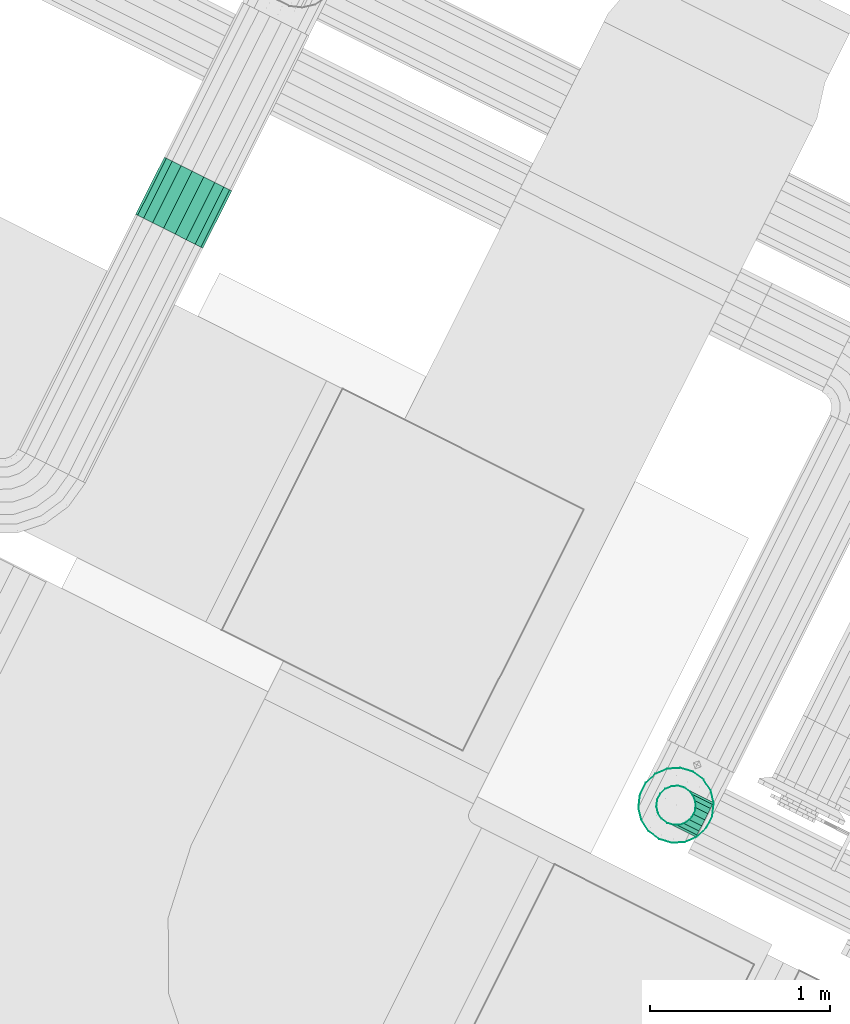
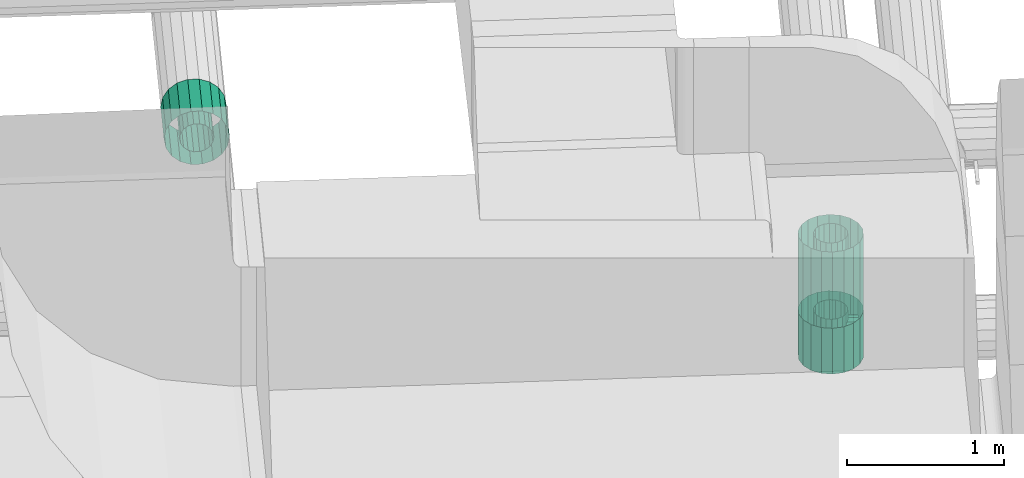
# One storey, part 77 of 152: 3 flow fittings, 1 flow segment.
"""IFC2X3 building model written with IfcOpenShell, lengths in metres."""

from ifc_helpers import new_model, si_unit, derived_unit, direction, frame, origin, place, context, subcontext, project, spatial, face_set, surface_model, source, transform, mapped, material, type_object, type_shapes, element, save


model = new_model("IFC2X3")

# Units and contexts
model_context = context("Model", 3, precision=5.2338327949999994e-05, world=origin(), true_north=direction((0.0, 1.0)))
body_context = subcontext(model_context, "Body", "Model", "MODEL_VIEW")
ifc_project = project(units=[si_unit("LENGTHUNIT", "METRE"), si_unit("AREAUNIT", "SQUARE_METRE"), si_unit("VOLUMEUNIT", "CUBIC_METRE"), si_unit("MASSUNIT", "GRAM", prefix="KILO"), si_unit("PLANEANGLEUNIT", "RADIAN"), derived_unit("THERMALTRANSMITTANCEUNIT", [(si_unit("MASSUNIT", "GRAM", prefix="KILO"), 1), (si_unit("THERMODYNAMICTEMPERATUREUNIT", "KELVIN"), -1), (si_unit("TIMEUNIT", "SECOND"), -3)])], contexts=[model_context])

# Site, building, storey
site_placement = place(None, frame((0.0, 0.0, 0.0), z_axis=(0.0, 0.0, 1.0), x_axis=(0.8939966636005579, -0.4480736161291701, 0.0)))
site = spatial("IfcSite", under=ifc_project, at=site_placement, Name="Default", CompositionType="ELEMENT")
building_placement = place(site_placement, origin())
building = spatial("IfcBuilding", under=site, at=building_placement, CompositionType="ELEMENT")
storey_placement = place(building_placement, frame((0.0, 0.0, 2.7499999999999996)))
storey = spatial("IfcBuildingStorey", under=building, at=storey_placement, Name="1. Obergeschoss", CompositionType="ELEMENT", Elevation=2.7499999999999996)

# Flow fittings
ifc_material_1 = material(Name="IfcSurfaceStyle #9317")
distribution_element_type_1 = type_object("IfcDistributionElementType", Name="Abzweigstück 251239:Abzweigstück 251239", material=ifc_material_1)
shared_shape_1 = source(origin(), body_context, "Body", "SurfaceModel", [
    surface_model("IfcFaceBasedSurfaceModel", [(32.49539487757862, 8.52443682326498, 4.737549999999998), (32.45792657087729, 8.531043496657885, 4.737549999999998), (32.45792657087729, 8.531043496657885, 4.381549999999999), (32.49539487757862, 8.52443682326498, 4.381549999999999), (32.42497749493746, 8.550066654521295, 4.737549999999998), (32.42497749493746, 8.550066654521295, 4.381549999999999), (32.40052179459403, 8.579211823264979, 4.737549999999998), (32.40052179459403, 8.579211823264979, 4.381549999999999), (32.38750918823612, 8.614963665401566, 4.737549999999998), (32.38750918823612, 8.614963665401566, 4.381549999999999), (32.38750918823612, 8.65300998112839, 4.737549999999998), (32.38750918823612, 8.65300998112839, 4.381549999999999), (32.40052179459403, 8.688761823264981, 4.737549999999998), (32.40052179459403, 8.688761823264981, 4.381549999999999), (32.42497749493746, 8.717906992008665, 4.737549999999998), (32.42497749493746, 8.717906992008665, 4.381549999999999), (32.4579265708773, 8.736930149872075, 4.737549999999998), (32.4579265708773, 8.736930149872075, 4.381549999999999), (32.49539487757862, 8.74353682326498, 4.737549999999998), (32.49539487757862, 8.74353682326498, 4.381549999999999), (32.53286318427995, 8.736930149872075, 4.737549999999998), (32.53286318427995, 8.736930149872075, 4.381549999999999), (32.56581226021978, 8.717906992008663, 4.737549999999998), (32.56581226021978, 8.717906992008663, 4.381549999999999), (32.5902679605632, 8.68876182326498, 4.737549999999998), (32.5902679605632, 8.68876182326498, 4.381549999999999), (32.6032805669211, 8.653009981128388, 4.737549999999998), (32.6032805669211, 8.653009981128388, 4.381549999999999), (32.60328056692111, 8.614963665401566, 4.737549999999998), (32.60328056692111, 8.614963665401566, 4.381549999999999), (32.5902679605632, 8.579211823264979, 4.737549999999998), (32.5902679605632, 8.579211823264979, 4.381549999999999), (32.56581226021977, 8.550066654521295, 4.737549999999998), (32.56581226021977, 8.550066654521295, 4.381549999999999), (32.53286318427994, 8.531043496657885, 4.737549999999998), (32.53286318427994, 8.531043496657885, 4.381549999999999), (32.49539487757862, 8.424436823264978, 4.737549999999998), (32.423724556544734, 8.437074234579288, 4.737549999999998), (32.42372455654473, 8.437074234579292, 4.381549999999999), (32.49539487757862, 8.424436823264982, 4.381549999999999), (32.3606987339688, 8.4734622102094, 4.737549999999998), (32.3606987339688, 8.4734622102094, 4.381549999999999), (32.31391925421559, 8.529211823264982, 4.737549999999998), (32.31391925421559, 8.529211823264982, 4.381549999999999), (32.28902841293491, 8.597598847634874, 4.737549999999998), (32.28902841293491, 8.597598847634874, 4.381549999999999), (32.28902841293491, 8.670374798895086, 4.737549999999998), (32.28902841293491, 8.670374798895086, 4.381549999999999), (32.31391925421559, 8.738761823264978, 4.737549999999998), (32.31391925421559, 8.738761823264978, 4.381549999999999), (32.3606987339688, 8.794511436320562, 4.737549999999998), (32.3606987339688, 8.794511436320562, 4.381549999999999), (32.42372455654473, 8.83089941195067, 4.737549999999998), (32.42372455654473, 8.83089941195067, 4.381549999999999), (32.49539487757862, 8.843536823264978, 4.737549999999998), (32.49539487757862, 8.843536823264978, 4.381549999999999), (32.56706519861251, 8.830899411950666, 4.737549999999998), (32.56706519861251, 8.830899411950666, 4.381549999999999), (32.630091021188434, 8.794511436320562, 4.737549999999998), (32.630091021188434, 8.794511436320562, 4.381549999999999), (32.67687050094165, 8.738761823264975, 4.737549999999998), (32.67687050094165, 8.738761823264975, 4.381549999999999), (32.701761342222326, 8.670374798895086, 4.737549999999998), (32.701761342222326, 8.670374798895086, 4.381549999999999), (32.701761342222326, 8.597598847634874, 4.737549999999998), (32.701761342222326, 8.597598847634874, 4.381549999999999), (32.67687050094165, 8.529211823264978, 4.737549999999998), (32.67687050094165, 8.529211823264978, 4.381549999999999), (32.630091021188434, 8.473462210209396, 4.737549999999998), (32.630091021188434, 8.473462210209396, 4.381549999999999), (32.56706519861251, 8.437074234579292, 4.737549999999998), (32.56706519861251, 8.437074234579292, 4.381549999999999), (32.60494487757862, 8.63398682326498, 4.449999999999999), (32.598338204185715, 8.671455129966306, 4.456606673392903), (32.673394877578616, 8.671455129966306, 4.456606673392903), (32.67339487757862, 8.63398682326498, 4.449999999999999), (32.5793150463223, 8.70440420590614, 4.475629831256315), (32.673394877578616, 8.70440420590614, 4.475629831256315), (32.55016987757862, 8.728859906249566, 4.5047749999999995), (32.673394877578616, 8.728859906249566, 4.5047749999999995), (32.514418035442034, 8.741872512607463, 4.540526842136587), (32.673394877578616, 8.741872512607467, 4.540526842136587), (32.514418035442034, 8.741872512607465, 4.578573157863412), (32.673394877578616, 8.741872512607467, 4.578573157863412), (32.55016987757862, 8.728859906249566, 4.614324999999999), (32.673394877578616, 8.728859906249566, 4.614324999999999), (32.5793150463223, 8.70440420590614, 4.643470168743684), (32.673394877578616, 8.70440420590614, 4.643470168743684), (32.598338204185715, 8.671455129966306, 4.662493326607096), (32.673394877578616, 8.671455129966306, 4.662493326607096), (32.60494487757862, 8.63398682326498, 4.6690999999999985), (32.67339487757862, 8.63398682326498, 4.669099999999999), (32.5983382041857, 8.596518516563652, 4.662493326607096), (32.673394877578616, 8.596518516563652, 4.662493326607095), (32.5793150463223, 8.56356944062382, 4.643470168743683), (32.673394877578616, 8.56356944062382, 4.643470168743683), (32.55016987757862, 8.539113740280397, 4.614324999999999), (32.673394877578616, 8.539113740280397, 4.614325), (32.51441803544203, 8.526101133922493, 4.578573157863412), (32.673394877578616, 8.526101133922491, 4.578573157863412), (32.51441803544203, 8.526101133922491, 4.540526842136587), (32.673394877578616, 8.52610113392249, 4.540526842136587), (32.55016987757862, 8.539113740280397, 4.5047749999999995), (32.673394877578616, 8.539113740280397, 4.5047749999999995), (32.5793150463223, 8.56356944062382, 4.475629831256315), (32.673394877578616, 8.563569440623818, 4.475629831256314), (32.5983382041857, 8.596518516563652, 4.456606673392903), (32.673394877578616, 8.596518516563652, 4.456606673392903)], [face_set([[[0, 1, 2, 3]], [[1, 4, 5, 2]], [[4, 6, 7, 5]], [[6, 8, 9, 7]], [[8, 10, 11, 9]], [[10, 12, 13, 11]], [[12, 14, 15, 13]], [[14, 16, 17, 15]], [[16, 18, 19, 17]], [[18, 20, 21, 19]], [[20, 22, 23, 21]], [[22, 24, 25, 23]], [[24, 26, 27, 25]], [[26, 28, 29, 27]], [[28, 30, 31, 29]], [[30, 32, 33, 31]], [[32, 34, 35, 33]], [[34, 0, 3, 35]], [[36, 37, 38, 39]], [[37, 40, 41, 38]], [[40, 42, 43, 41]], [[42, 44, 45, 43]], [[44, 46, 47, 45]], [[46, 48, 49, 47]], [[48, 50, 51, 49]], [[50, 52, 53, 51]], [[52, 54, 55, 53]], [[54, 56, 57, 55]], [[56, 58, 59, 57]], [[58, 60, 61, 59]], [[60, 62, 63, 61]], [[62, 64, 65, 63]], [[64, 66, 67, 65]], [[66, 68, 69, 67]], [[68, 70, 71, 69]], [[70, 36, 39, 71]], [[72, 73, 74, 75]], [[73, 76, 77, 74]], [[76, 78, 79, 77]], [[78, 80, 81, 79]], [[80, 82, 83, 81]], [[82, 84, 85, 83]], [[84, 86, 87, 85]], [[86, 88, 89, 87]], [[88, 90, 91, 89]], [[90, 92, 93, 91]], [[92, 94, 95, 93]], [[94, 96, 97, 95]], [[96, 98, 99, 97]], [[98, 100, 101, 99]], [[100, 102, 103, 101]], [[102, 104, 105, 103]], [[104, 106, 107, 105]], [[106, 72, 75, 107]]])]),
])
type_shapes(distribution_element_type_1, [shared_shape_1])
flow_fitting_1_placement = place(storey_placement, frame((0.0, 0.0, -2.7499999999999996)))
element("IfcFlowFitting", 1, at=flow_fitting_1_placement, inside=storey, type_object=distribution_element_type_1, material=ifc_material_1, Name="Abzweigstück", ObjectType="Abzweigstück", context=body_context, shape_type="MappedRepresentation", body=[
    mapped(shared_shape_1, transform((0.0, 0.0, 0.0), scale=1.0)),
])
distribution_element_type_2 = type_object("IfcDistributionElementType", Name="Abzweigstück 346827:Abzweigstück 346827", material=ifc_material_1)
shared_shape_2 = source(origin(), body_context, "Body", "SurfaceModel", [
    surface_model("IfcFaceBasedSurfaceModel", [(32.49539487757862, 8.52443682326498, 4.73755), (32.45792657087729, 8.531043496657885, 4.73755), (32.45792657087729, 8.531043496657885, 4.38155), (32.49539487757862, 8.52443682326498, 4.38155), (32.42497749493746, 8.550066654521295, 4.73755), (32.42497749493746, 8.550066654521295, 4.38155), (32.40052179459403, 8.579211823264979, 4.73755), (32.40052179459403, 8.579211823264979, 4.38155), (32.38750918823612, 8.614963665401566, 4.73755), (32.38750918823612, 8.614963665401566, 4.38155), (32.38750918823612, 8.65300998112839, 4.73755), (32.38750918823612, 8.65300998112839, 4.38155), (32.40052179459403, 8.688761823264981, 4.73755), (32.40052179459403, 8.688761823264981, 4.38155), (32.42497749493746, 8.717906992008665, 4.73755), (32.42497749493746, 8.717906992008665, 4.38155), (32.4579265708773, 8.736930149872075, 4.73755), (32.4579265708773, 8.736930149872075, 4.38155), (32.49539487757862, 8.74353682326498, 4.73755), (32.49539487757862, 8.74353682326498, 4.38155), (32.53286318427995, 8.736930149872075, 4.73755), (32.53286318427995, 8.736930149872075, 4.38155), (32.56581226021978, 8.717906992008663, 4.73755), (32.56581226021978, 8.717906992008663, 4.38155), (32.5902679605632, 8.68876182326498, 4.73755), (32.5902679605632, 8.68876182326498, 4.38155), (32.6032805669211, 8.653009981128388, 4.73755), (32.6032805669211, 8.653009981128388, 4.38155), (32.60328056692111, 8.614963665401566, 4.73755), (32.60328056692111, 8.614963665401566, 4.38155), (32.5902679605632, 8.579211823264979, 4.73755), (32.5902679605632, 8.579211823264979, 4.38155), (32.56581226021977, 8.550066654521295, 4.73755), (32.56581226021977, 8.550066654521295, 4.38155), (32.53286318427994, 8.531043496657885, 4.73755), (32.53286318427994, 8.531043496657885, 4.38155), (32.49539487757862, 8.424436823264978, 4.73755), (32.423724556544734, 8.437074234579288, 4.73755), (32.42372455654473, 8.437074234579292, 4.38155), (32.49539487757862, 8.424436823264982, 4.38155), (32.3606987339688, 8.4734622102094, 4.73755), (32.3606987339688, 8.4734622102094, 4.38155), (32.31391925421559, 8.529211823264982, 4.73755), (32.31391925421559, 8.529211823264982, 4.38155), (32.28902841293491, 8.597598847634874, 4.73755), (32.28902841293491, 8.597598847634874, 4.38155), (32.28902841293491, 8.670374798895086, 4.73755), (32.28902841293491, 8.670374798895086, 4.38155), (32.31391925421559, 8.738761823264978, 4.73755), (32.31391925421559, 8.738761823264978, 4.38155), (32.3606987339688, 8.794511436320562, 4.73755), (32.3606987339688, 8.794511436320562, 4.38155), (32.42372455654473, 8.83089941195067, 4.73755), (32.42372455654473, 8.83089941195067, 4.38155), (32.49539487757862, 8.843536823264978, 4.73755), (32.49539487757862, 8.843536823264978, 4.38155), (32.56706519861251, 8.830899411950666, 4.73755), (32.56706519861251, 8.830899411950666, 4.38155), (32.630091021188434, 8.794511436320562, 4.73755), (32.630091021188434, 8.794511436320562, 4.38155), (32.67687050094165, 8.738761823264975, 4.73755), (32.67687050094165, 8.738761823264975, 4.38155), (32.701761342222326, 8.670374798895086, 4.73755), (32.701761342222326, 8.670374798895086, 4.38155), (32.701761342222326, 8.597598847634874, 4.73755), (32.701761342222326, 8.597598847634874, 4.38155), (32.67687050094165, 8.529211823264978, 4.73755), (32.67687050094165, 8.529211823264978, 4.38155), (32.630091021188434, 8.473462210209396, 4.73755), (32.630091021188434, 8.473462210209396, 4.38155), (32.56706519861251, 8.437074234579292, 4.73755), (32.56706519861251, 8.437074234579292, 4.38155), (32.60494487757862, 8.63398682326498, 4.449999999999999), (32.598338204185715, 8.671455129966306, 4.456606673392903), (32.673394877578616, 8.671455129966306, 4.456606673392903), (32.67339487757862, 8.63398682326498, 4.449999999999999), (32.5793150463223, 8.70440420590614, 4.475629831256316), (32.673394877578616, 8.70440420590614, 4.475629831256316), (32.55016987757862, 8.728859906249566, 4.5047749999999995), (32.673394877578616, 8.728859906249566, 4.5047749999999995), (32.514418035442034, 8.741872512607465, 4.540526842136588), (32.673394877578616, 8.741872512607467, 4.540526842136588), (32.514418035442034, 8.741872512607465, 4.578573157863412), (32.673394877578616, 8.741872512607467, 4.578573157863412), (32.55016987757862, 8.728859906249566, 4.614325), (32.673394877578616, 8.728859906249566, 4.614325), (32.5793150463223, 8.70440420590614, 4.643470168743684), (32.673394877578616, 8.70440420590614, 4.643470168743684), (32.598338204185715, 8.671455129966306, 4.6624933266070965), (32.673394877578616, 8.671455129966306, 4.6624933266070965), (32.60494487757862, 8.63398682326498, 4.6691), (32.67339487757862, 8.63398682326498, 4.6691), (32.5983382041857, 8.596518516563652, 4.6624933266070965), (32.673394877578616, 8.596518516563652, 4.6624933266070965), (32.5793150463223, 8.56356944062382, 4.643470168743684), (32.673394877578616, 8.56356944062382, 4.643470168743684), (32.55016987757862, 8.539113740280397, 4.614325), (32.673394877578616, 8.539113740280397, 4.614325), (32.51441803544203, 8.526101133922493, 4.578573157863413), (32.673394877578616, 8.526101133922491, 4.578573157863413), (32.51441803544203, 8.526101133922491, 4.540526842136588), (32.673394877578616, 8.52610113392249, 4.540526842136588), (32.55016987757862, 8.539113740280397, 4.504775), (32.673394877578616, 8.539113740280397, 4.504775), (32.5793150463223, 8.56356944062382, 4.475629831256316), (32.673394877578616, 8.563569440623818, 4.475629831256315), (32.5983382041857, 8.596518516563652, 4.456606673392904), (32.673394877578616, 8.596518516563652, 4.456606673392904)], [face_set([[[0, 1, 2, 3]], [[1, 4, 5, 2]], [[4, 6, 7, 5]], [[6, 8, 9, 7]], [[8, 10, 11, 9]], [[10, 12, 13, 11]], [[12, 14, 15, 13]], [[14, 16, 17, 15]], [[16, 18, 19, 17]], [[18, 20, 21, 19]], [[20, 22, 23, 21]], [[22, 24, 25, 23]], [[24, 26, 27, 25]], [[26, 28, 29, 27]], [[28, 30, 31, 29]], [[30, 32, 33, 31]], [[32, 34, 35, 33]], [[34, 0, 3, 35]], [[36, 37, 38, 39]], [[37, 40, 41, 38]], [[40, 42, 43, 41]], [[42, 44, 45, 43]], [[44, 46, 47, 45]], [[46, 48, 49, 47]], [[48, 50, 51, 49]], [[50, 52, 53, 51]], [[52, 54, 55, 53]], [[54, 56, 57, 55]], [[56, 58, 59, 57]], [[58, 60, 61, 59]], [[60, 62, 63, 61]], [[62, 64, 65, 63]], [[64, 66, 67, 65]], [[66, 68, 69, 67]], [[68, 70, 71, 69]], [[70, 36, 39, 71]], [[72, 73, 74, 75]], [[73, 76, 77, 74]], [[76, 78, 79, 77]], [[78, 80, 81, 79]], [[80, 82, 83, 81]], [[82, 84, 85, 83]], [[84, 86, 87, 85]], [[86, 88, 89, 87]], [[88, 90, 91, 89]], [[90, 92, 93, 91]], [[92, 94, 95, 93]], [[94, 96, 97, 95]], [[96, 98, 99, 97]], [[98, 100, 101, 99]], [[100, 102, 103, 101]], [[102, 104, 105, 103]], [[104, 106, 107, 105]], [[106, 72, 75, 107]]])]),
])
type_shapes(distribution_element_type_2, [shared_shape_2])
flow_fitting_2_placement = place(storey_placement, frame((0.0, 0.0, -2.7499999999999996)))
element("IfcFlowFitting", 2, at=flow_fitting_2_placement, inside=storey, type_object=distribution_element_type_2, material=ifc_material_1, Name="Abzweigstück", ObjectType="Abzweigstück", context=body_context, shape_type="MappedRepresentation", body=[
    mapped(shared_shape_2, transform((0.0, 0.0, 0.0), scale=1.0)),
])

# Flow segment
distribution_element_type_3 = type_object("IfcDistributionElementType", Name="Stahlrohr nach DIN 2448 347596:Stahlrohr nach DIN 2448 347596", material=ifc_material_1)
shared_shape_3 = source(origin(), body_context, "Body", "SurfaceModel", [
    surface_model("IfcFaceBasedSurfaceModel", [(32.49539487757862, 8.524436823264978, 4.73755), (32.53286318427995, 8.531043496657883, 4.73755), (32.53286318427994, 8.531043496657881, 5.330640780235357), (32.49539487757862, 8.524436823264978, 5.330640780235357), (32.56581226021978, 8.550066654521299, 4.73755), (32.56581226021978, 8.550066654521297, 5.330640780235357), (32.5902679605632, 8.57921182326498, 4.73755), (32.590267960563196, 8.579211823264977, 5.330640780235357), (32.6032805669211, 8.61496366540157, 4.73755), (32.6032805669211, 8.614963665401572, 5.330640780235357), (32.60328056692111, 8.653009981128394, 4.73755), (32.60328056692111, 8.653009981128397, 5.330640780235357), (32.5902679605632, 8.688761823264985, 4.73755), (32.5902679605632, 8.688761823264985, 5.330640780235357), (32.56581226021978, 8.717906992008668, 4.73755), (32.56581226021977, 8.717906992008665, 5.330640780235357), (32.53286318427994, 8.736930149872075, 4.73755), (32.53286318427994, 8.736930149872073, 5.330640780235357), (32.49539487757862, 8.74353682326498, 4.73755), (32.49539487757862, 8.74353682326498, 5.330640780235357), (32.45792657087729, 8.736930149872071, 4.73755), (32.45792657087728, 8.736930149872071, 5.330640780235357), (32.42497749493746, 8.71790699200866, 4.73755), (32.424977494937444, 8.717906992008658, 5.330640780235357), (32.40052179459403, 8.688761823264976, 4.73755), (32.40052179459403, 8.688761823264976, 5.330640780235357), (32.38750918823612, 8.653009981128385, 4.73755), (32.38750918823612, 8.653009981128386, 5.330640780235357), (32.38750918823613, 8.614963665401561, 4.73755), (32.38750918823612, 8.61496366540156, 5.330640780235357), (32.40052179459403, 8.579211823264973, 4.73755), (32.40052179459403, 8.579211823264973, 5.330640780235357), (32.42497749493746, 8.550066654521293, 4.73755), (32.424977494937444, 8.550066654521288, 5.330640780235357), (32.4579265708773, 8.531043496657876, 4.73755), (32.45792657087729, 8.531043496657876, 5.330640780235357), (32.49539487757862, 8.424436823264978, 4.73755), (32.567065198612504, 8.437074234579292, 4.73755), (32.567065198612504, 8.437074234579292, 5.330640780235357), (32.49539487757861, 8.424436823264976, 5.330640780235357), (32.630091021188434, 8.4734622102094, 4.73755), (32.63009102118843, 8.4734622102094, 5.330640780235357), (32.67687050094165, 8.529211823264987, 4.73755), (32.67687050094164, 8.529211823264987, 5.330640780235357), (32.701761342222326, 8.597598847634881, 4.73755), (32.701761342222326, 8.597598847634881, 5.330640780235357), (32.701761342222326, 8.670374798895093, 4.73755), (32.701761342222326, 8.670374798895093, 5.330640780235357), (32.67687050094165, 8.738761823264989, 4.73755), (32.67687050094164, 8.738761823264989, 5.330640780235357), (32.630091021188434, 8.794511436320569, 4.73755), (32.63009102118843, 8.794511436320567, 5.330640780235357), (32.56706519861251, 8.830899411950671, 4.73755), (32.567065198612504, 8.83089941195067, 5.330640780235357), (32.49539487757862, 8.843536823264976, 4.73755), (32.49539487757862, 8.843536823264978, 5.330640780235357), (32.42372455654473, 8.830899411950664, 4.73755), (32.42372455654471, 8.83089941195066, 5.330640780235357), (32.3606987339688, 8.794511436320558, 4.73755), (32.360698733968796, 8.794511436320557, 5.330640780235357), (32.31391925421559, 8.738761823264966, 4.73755), (32.313919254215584, 8.738761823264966, 5.330640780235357), (32.289028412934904, 8.670374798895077, 4.73755), (32.289028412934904, 8.670374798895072, 5.330640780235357), (32.289028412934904, 8.597598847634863, 4.73755), (32.289028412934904, 8.59759884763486, 5.330640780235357), (32.31391925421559, 8.52921182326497, 4.73755), (32.31391925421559, 8.529211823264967, 5.330640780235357), (32.360698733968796, 8.473462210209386, 4.73755), (32.360698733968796, 8.473462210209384, 5.330640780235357), (32.42372455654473, 8.437074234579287, 4.73755), (32.42372455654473, 8.437074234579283, 5.330640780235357)], [face_set([[[0, 1, 2, 3]], [[1, 4, 5, 2]], [[4, 6, 7, 5]], [[6, 8, 9, 7]], [[8, 10, 11, 9]], [[10, 12, 13, 11]], [[12, 14, 15, 13]], [[14, 16, 17, 15]], [[16, 18, 19, 17]], [[18, 20, 21, 19]], [[20, 22, 23, 21]], [[22, 24, 25, 23]], [[24, 26, 27, 25]], [[26, 28, 29, 27]], [[28, 30, 31, 29]], [[30, 32, 33, 31]], [[32, 34, 35, 33]], [[34, 0, 3, 35]], [[36, 37, 38, 39]], [[37, 40, 41, 38]], [[40, 42, 43, 41]], [[42, 44, 45, 43]], [[44, 46, 47, 45]], [[46, 48, 49, 47]], [[48, 50, 51, 49]], [[50, 52, 53, 51]], [[52, 54, 55, 53]], [[54, 56, 57, 55]], [[56, 58, 59, 57]], [[58, 60, 61, 59]], [[60, 62, 63, 61]], [[62, 64, 65, 63]], [[64, 66, 67, 65]], [[66, 68, 69, 67]], [[68, 70, 71, 69]], [[70, 36, 39, 71]]])]),
])
type_shapes(distribution_element_type_3, [shared_shape_3])
flow_segment_placement = place(storey_placement, frame((0.0, 0.0, -2.7499999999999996)))
element("IfcFlowSegment", 3, at=flow_segment_placement, inside=storey, type_object=distribution_element_type_3, material=ifc_material_1, Name="Stahlrohr nach DIN 2448", ObjectType="Stahlrohr nach DIN 2448", context=body_context, shape_type="MappedRepresentation", body=[
    mapped(shared_shape_3, transform((0.0, 0.0, 0.0), scale=1.0)),
])

# Flow fitting
ifc_material_2 = material(Name="IfcSurfaceStyle #1741")
distribution_element_type_4 = type_object("IfcDistributionElementType", Name="Abzweigstück 347923:Abzweigstück 347923", material=ifc_material_2)
shared_shape_4 = source(origin(), body_context, "Body", "SurfaceModel", [
    surface_model("IfcFaceBasedSurfaceModel", [(28.436374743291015, 10.225208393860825, 5.122997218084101), (28.44298141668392, 10.225208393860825, 5.160465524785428), (28.44298141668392, 10.581208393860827, 5.160465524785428), (28.436374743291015, 10.581208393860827, 5.122997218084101), (28.462004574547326, 10.225208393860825, 5.193414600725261), (28.462004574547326, 10.581208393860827, 5.193414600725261), (28.49114974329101, 10.225208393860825, 5.21787030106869), (28.49114974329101, 10.581208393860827, 5.21787030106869), (28.5269015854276, 10.225208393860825, 5.2308829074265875), (28.5269015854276, 10.581208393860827, 5.2308829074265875), (28.564947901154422, 10.225208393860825, 5.230882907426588), (28.564947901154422, 10.581208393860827, 5.230882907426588), (28.600699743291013, 10.225208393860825, 5.217870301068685), (28.600699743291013, 10.581208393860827, 5.217870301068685), (28.629844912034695, 10.225208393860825, 5.19341460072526), (28.629844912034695, 10.581208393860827, 5.19341460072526), (28.648868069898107, 10.225208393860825, 5.160465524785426), (28.648868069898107, 10.581208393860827, 5.160465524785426), (28.65547474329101, 10.225208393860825, 5.122997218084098), (28.65547474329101, 10.581208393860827, 5.122997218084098), (28.648868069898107, 10.225208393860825, 5.085528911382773), (28.648868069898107, 10.581208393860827, 5.085528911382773), (28.62984491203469, 10.225208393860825, 5.05257983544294), (28.62984491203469, 10.581208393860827, 5.05257983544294), (28.60069974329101, 10.225208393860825, 5.028124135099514), (28.60069974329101, 10.581208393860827, 5.028124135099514), (28.564947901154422, 10.225208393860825, 5.015111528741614), (28.564947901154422, 10.581208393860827, 5.015111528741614), (28.526901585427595, 10.225208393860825, 5.015111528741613), (28.526901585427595, 10.581208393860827, 5.015111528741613), (28.491149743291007, 10.225208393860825, 5.028124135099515), (28.491149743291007, 10.581208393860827, 5.028124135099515), (28.462004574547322, 10.225208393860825, 5.052579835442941), (28.462004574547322, 10.581208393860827, 5.052579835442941), (28.442981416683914, 10.225208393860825, 5.085528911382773), (28.442981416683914, 10.581208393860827, 5.085528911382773), (28.33637474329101, 10.225208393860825, 5.1229972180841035), (28.34901215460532, 10.225208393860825, 5.194667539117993), (28.349012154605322, 10.581208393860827, 5.194667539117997), (28.33637474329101, 10.581208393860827, 5.122997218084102), (28.385400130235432, 10.225208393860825, 5.257693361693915), (28.385400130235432, 10.581208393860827, 5.257693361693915), (28.441149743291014, 10.225208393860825, 5.3044728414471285), (28.441149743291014, 10.581208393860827, 5.3044728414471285), (28.509536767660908, 10.225208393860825, 5.329363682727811), (28.509536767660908, 10.581208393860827, 5.329363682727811), (28.582312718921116, 10.225208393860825, 5.3293636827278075), (28.582312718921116, 10.581208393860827, 5.3293636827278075), (28.65069974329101, 10.225208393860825, 5.304472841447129), (28.65069974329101, 10.581208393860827, 5.304472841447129), (28.706449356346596, 10.225208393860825, 5.257693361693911), (28.706449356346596, 10.581208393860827, 5.257693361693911), (28.742837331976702, 10.225208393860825, 5.194667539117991), (28.742837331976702, 10.581208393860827, 5.194667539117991), (28.75547474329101, 10.225208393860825, 5.122997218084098), (28.75547474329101, 10.581208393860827, 5.122997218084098), (28.7428373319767, 10.225208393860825, 5.051326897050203), (28.7428373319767, 10.581208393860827, 5.051326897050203), (28.706449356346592, 10.225208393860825, 4.988301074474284), (28.706449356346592, 10.581208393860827, 4.988301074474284), (28.65069974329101, 10.225208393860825, 4.9415215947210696), (28.65069974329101, 10.581208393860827, 4.9415215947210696), (28.582312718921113, 10.225208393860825, 4.916630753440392), (28.582312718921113, 10.581208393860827, 4.916630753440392), (28.509536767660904, 10.225208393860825, 4.916630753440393), (28.509536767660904, 10.581208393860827, 4.916630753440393), (28.44114974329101, 10.225208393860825, 4.941521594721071), (28.44114974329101, 10.581208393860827, 4.941521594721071), (28.385400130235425, 10.225208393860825, 4.988301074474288), (28.385400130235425, 10.581208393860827, 4.988301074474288), (28.349012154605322, 10.225208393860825, 5.051326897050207), (28.349012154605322, 10.581208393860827, 5.051326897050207), (28.54592474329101, 10.447658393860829, 5.013447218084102), (28.561127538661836, 10.444977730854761, 5.014507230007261), (28.561127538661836, 10.444977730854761, 4.970997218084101), (28.54592474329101, 10.447658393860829, 4.9709972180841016), (28.574496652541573, 10.437259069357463, 5.017238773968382), (28.574496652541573, 10.437259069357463, 4.970997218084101), (28.58441957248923, 10.425433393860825, 5.020433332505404), (28.58441957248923, 10.425433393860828, 4.970997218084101), (28.5896994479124, 10.41092705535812, 5.022573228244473), (28.589699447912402, 10.410927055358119, 4.970997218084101), (28.5896994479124, 10.395489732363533, 5.022573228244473), (28.5896994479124, 10.395489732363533, 4.970997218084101), (28.58441957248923, 10.380983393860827, 5.020433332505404), (28.58441957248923, 10.380983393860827, 4.970997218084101), (28.574496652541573, 10.36915771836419, 5.017238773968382), (28.574496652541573, 10.369157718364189, 4.970997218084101), (28.561127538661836, 10.361439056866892, 5.014507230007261), (28.561127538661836, 10.361439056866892, 4.970997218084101), (28.54592474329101, 10.358758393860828, 5.013447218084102), (28.54592474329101, 10.358758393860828, 4.9709972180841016), (28.530721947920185, 10.361439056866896, 5.014507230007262), (28.530721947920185, 10.361439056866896, 4.970997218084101), (28.517352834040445, 10.369157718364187, 5.017238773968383), (28.517352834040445, 10.369157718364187, 4.970997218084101), (28.5074299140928, 10.380983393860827, 5.020433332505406), (28.507429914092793, 10.380983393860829, 4.9709972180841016), (28.50215003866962, 10.395489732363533, 5.0225732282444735), (28.50215003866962, 10.395489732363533, 4.9709972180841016), (28.50215003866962, 10.41092705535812, 5.0225732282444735), (28.50215003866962, 10.41092705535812, 4.9709972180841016), (28.507429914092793, 10.425433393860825, 5.020433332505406), (28.50742991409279, 10.425433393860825, 4.9709972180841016), (28.517352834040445, 10.437259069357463, 5.017238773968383), (28.517352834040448, 10.437259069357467, 4.970997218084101), (28.530721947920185, 10.44497773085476, 5.014507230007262), (28.530721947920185, 10.444977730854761, 4.970997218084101)], [face_set([[[0, 1, 2, 3]], [[1, 4, 5, 2]], [[4, 6, 7, 5]], [[6, 8, 9, 7]], [[8, 10, 11, 9]], [[10, 12, 13, 11]], [[12, 14, 15, 13]], [[14, 16, 17, 15]], [[16, 18, 19, 17]], [[18, 20, 21, 19]], [[20, 22, 23, 21]], [[22, 24, 25, 23]], [[24, 26, 27, 25]], [[26, 28, 29, 27]], [[28, 30, 31, 29]], [[30, 32, 33, 31]], [[32, 34, 35, 33]], [[34, 0, 3, 35]], [[36, 37, 38, 39]], [[37, 40, 41, 38]], [[40, 42, 43, 41]], [[42, 44, 45, 43]], [[44, 46, 47, 45]], [[46, 48, 49, 47]], [[48, 50, 51, 49]], [[50, 52, 53, 51]], [[52, 54, 55, 53]], [[54, 56, 57, 55]], [[56, 58, 59, 57]], [[58, 60, 61, 59]], [[60, 62, 63, 61]], [[62, 64, 65, 63]], [[64, 66, 67, 65]], [[66, 68, 69, 67]], [[68, 70, 71, 69]], [[70, 36, 39, 71]], [[72, 73, 74, 75]], [[73, 76, 77, 74]], [[76, 78, 79, 77]], [[78, 80, 81, 79]], [[80, 82, 83, 81]], [[82, 84, 85, 83]], [[84, 86, 87, 85]], [[86, 88, 89, 87]], [[88, 90, 91, 89]], [[90, 92, 93, 91]], [[92, 94, 95, 93]], [[94, 96, 97, 95]], [[96, 98, 99, 97]], [[98, 100, 101, 99]], [[100, 102, 103, 101]], [[102, 104, 105, 103]], [[104, 106, 107, 105]], [[106, 72, 75, 107]]])]),
])
type_shapes(distribution_element_type_4, [shared_shape_4])
flow_fitting_3_placement = place(storey_placement, frame((0.0, 0.0, -2.7499999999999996)))
element("IfcFlowFitting", 4, at=flow_fitting_3_placement, inside=storey, type_object=distribution_element_type_4, material=ifc_material_2, Name="Abzweigstück", ObjectType="Abzweigstück", context=body_context, shape_type="MappedRepresentation", body=[
    mapped(shared_shape_4, transform((0.0, 0.0, 0.0), scale=1.0)),
])

save(model, "model.ifc")
